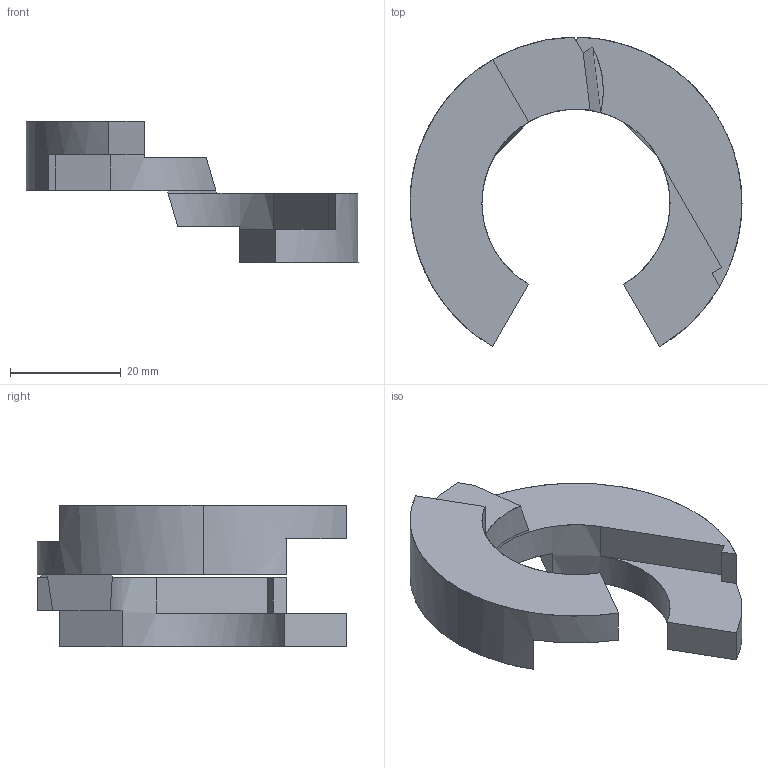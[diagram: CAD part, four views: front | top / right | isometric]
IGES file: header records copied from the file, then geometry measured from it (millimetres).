
Global section: file name: Z:\Oskar_Projects\Inward Ring\Inward Ring.igs; native system: Rhinoceros ( May 19 2006 ); preprocessor: Trout Lake IGES 012 May 19 2006; date: 240406.105937; units: millimetre
Bounding box: 60 x 55.93 x 25.5 mm (x, y, z)
Surface area: 6288.5 mm2 (no closed solid volume)
Topology: 0 solids, 0 shells, 37 faces, 195 edges, 195 vertices
Faces by surface type: bspline 37
